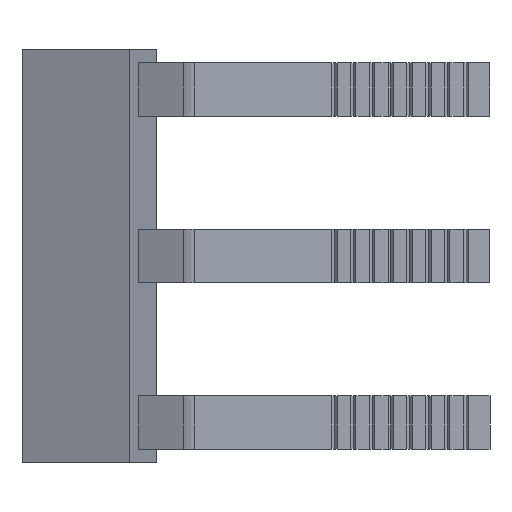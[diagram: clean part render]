
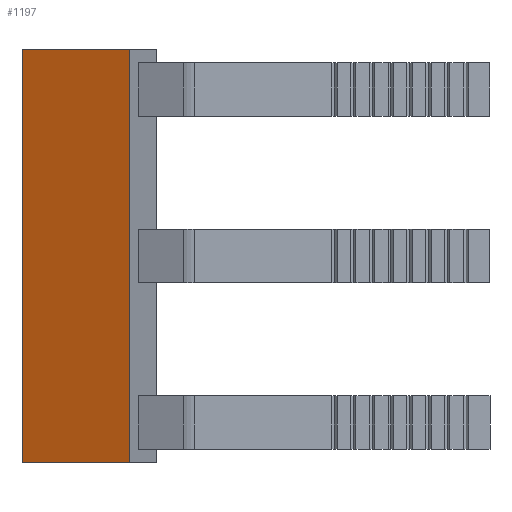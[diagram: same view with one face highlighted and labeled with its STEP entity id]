
A CAD part, left-side view. The second image highlights one B-rep face of the part: STEP entity #1197.
In plain terms, the highlighted planar face has unit normal (-0.906, 0.423, 0).
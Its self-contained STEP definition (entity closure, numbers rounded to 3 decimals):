
#1197 = ADVANCED_FACE('',(#1198),#1212,.T.);
#1198 = FACE_BOUND('',#1199,.T.);
#1199 = EDGE_LOOP('',(#1200,#1223,#1239,#1255));
#1200 = ORIENTED_EDGE('',*,*,#1201,.T.);
#1201 = EDGE_CURVE('',#1202,#1204,#1206,.T.);
#1202 = VERTEX_POINT('',#1203);
#1203 = CARTESIAN_POINT('',(5.647,18.704,8.7));
#1204 = VERTEX_POINT('',#1205);
#1205 = CARTESIAN_POINT('',(5.647,18.704,-6.7));
#1206 = SURFACE_CURVE('',#1207,(#1211),.PCURVE_S1.);
#1207 = LINE('',#1208,#1209);
#1208 = CARTESIAN_POINT('',(5.647,18.704,9.));
#1209 = VECTOR('',#1210,1.);
#1210 = DIRECTION('',(0.,0.,-1.));
#1211 = PCURVE('',#1212,#1217);
#1212 = PLANE('',#1213);
#1213 = AXIS2_PLACEMENT_3D('',#1214,#1215,#1216);
#1214 = CARTESIAN_POINT('',(-2.526,1.178,0.));
#1215 = DIRECTION('',(-0.906,0.423,0.));
#1216 = DIRECTION('',(0.423,0.906,0.));
#1217 = DEFINITIONAL_REPRESENTATION('',(#1218),#1222);
#1218 = LINE('',#1219,#1220);
#1219 = CARTESIAN_POINT('',(19.338,-9.));
#1220 = VECTOR('',#1221,1.);
#1221 = DIRECTION('',(0.,1.));
#1222 = ( GEOMETRIC_REPRESENTATION_CONTEXT(2) 
PARAMETRIC_REPRESENTATION_CONTEXT() REPRESENTATION_CONTEXT('2D SPACE',''
  ) );
#1223 = ORIENTED_EDGE('',*,*,#1224,.F.);
#1224 = EDGE_CURVE('',#1225,#1204,#1227,.T.);
#1225 = VERTEX_POINT('',#1226);
#1226 = CARTESIAN_POINT('',(3.787,14.716,-6.7));
#1227 = SURFACE_CURVE('',#1228,(#1232),.PCURVE_S1.);
#1228 = LINE('',#1229,#1230);
#1229 = CARTESIAN_POINT('',(-2.526,1.178,-6.7));
#1230 = VECTOR('',#1231,1.);
#1231 = DIRECTION('',(0.423,0.906,0.));
#1232 = PCURVE('',#1212,#1233);
#1233 = DEFINITIONAL_REPRESENTATION('',(#1234),#1238);
#1234 = LINE('',#1235,#1236);
#1235 = CARTESIAN_POINT('',(0.,6.7));
#1236 = VECTOR('',#1237,1.);
#1237 = DIRECTION('',(1.,0.));
#1238 = ( GEOMETRIC_REPRESENTATION_CONTEXT(2) 
PARAMETRIC_REPRESENTATION_CONTEXT() REPRESENTATION_CONTEXT('2D SPACE',''
  ) );
#1239 = ORIENTED_EDGE('',*,*,#1240,.T.);
#1240 = EDGE_CURVE('',#1225,#1241,#1243,.T.);
#1241 = VERTEX_POINT('',#1242);
#1242 = CARTESIAN_POINT('',(3.787,14.716,8.7));
#1243 = SURFACE_CURVE('',#1244,(#1248),.PCURVE_S1.);
#1244 = LINE('',#1245,#1246);
#1245 = CARTESIAN_POINT('',(3.787,14.716,-0.8));
#1246 = VECTOR('',#1247,1.);
#1247 = DIRECTION('',(0.,0.,1.));
#1248 = PCURVE('',#1212,#1249);
#1249 = DEFINITIONAL_REPRESENTATION('',(#1250),#1254);
#1250 = LINE('',#1251,#1252);
#1251 = CARTESIAN_POINT('',(14.938,0.8));
#1252 = VECTOR('',#1253,1.);
#1253 = DIRECTION('',(0.,-1.));
#1254 = ( GEOMETRIC_REPRESENTATION_CONTEXT(2) 
PARAMETRIC_REPRESENTATION_CONTEXT() REPRESENTATION_CONTEXT('2D SPACE',''
  ) );
#1255 = ORIENTED_EDGE('',*,*,#1256,.T.);
#1256 = EDGE_CURVE('',#1241,#1202,#1257,.T.);
#1257 = SURFACE_CURVE('',#1258,(#1262),.PCURVE_S1.);
#1258 = LINE('',#1259,#1260);
#1259 = CARTESIAN_POINT('',(-2.526,1.178,8.7));
#1260 = VECTOR('',#1261,1.);
#1261 = DIRECTION('',(0.423,0.906,0.));
#1262 = PCURVE('',#1212,#1263);
#1263 = DEFINITIONAL_REPRESENTATION('',(#1264),#1268);
#1264 = LINE('',#1265,#1266);
#1265 = CARTESIAN_POINT('',(0.,-8.7));
#1266 = VECTOR('',#1267,1.);
#1267 = DIRECTION('',(1.,0.));
#1268 = ( GEOMETRIC_REPRESENTATION_CONTEXT(2) 
PARAMETRIC_REPRESENTATION_CONTEXT() REPRESENTATION_CONTEXT('2D SPACE',''
  ) );
